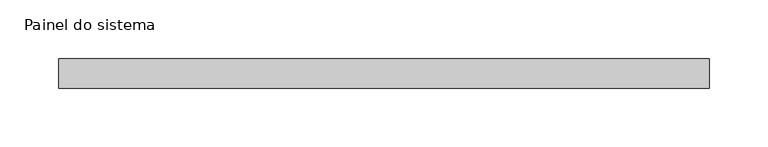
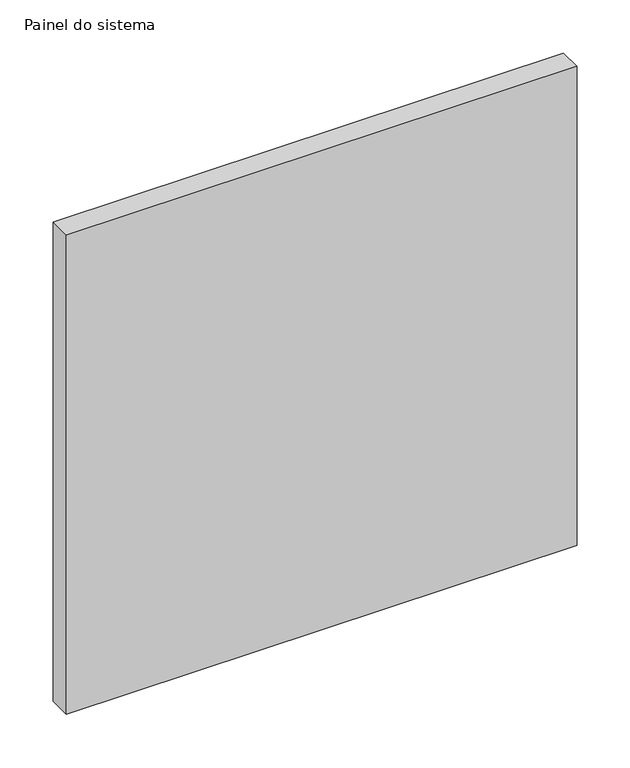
"""IFC4 building model written with IfcOpenShell, lengths in millimetres: plate geometry, Painel do sistema : Envidraçado."""

from ifc_helpers import new_model, si_unit, origin, origin_with_axes, place, context, project, spatial, polyline, outline, extrude, source, transform, mapped, element, save


def painel_do_sistema_366cc87a(model_context):
    return source(origin(), model_context, "Body", "SweptSolid", [
        extrude(outline(polyline([(277.0833333, 24.5), (-277.0833333, 24.5), (-277.0833333, 49.5), (277.0833333, 49.5), (277.0833333, 24.5)])), origin_with_axes(), (0.0, 0.0, 1.0), 550.0),
    ])


if __name__ == "__main__":
    model = new_model("IFC4")
    model_context = context("Model", 3, world=origin())
    ifc_project = project(units=[si_unit("LENGTHUNIT", "METRE", prefix="MILLI")], contexts=[model_context])
    site = spatial("IfcSite", under=ifc_project)
    building = spatial("IfcBuilding", under=site)
    placement = place(None, origin())
    painel_do_sistema_shape = painel_do_sistema_366cc87a(model_context)
    element("IfcPlate", 1, ObjectType="Painel do sistema : Envidraçado", at=placement, inside=building, context=model_context, shape_type="MappedRepresentation", body=[
        mapped(painel_do_sistema_shape, transform((0.0, 0.0, 0.0), x_axis=(1.0, 0.0, 0.0), y_axis=(0.0, 1.0, 0.0), z_axis=(0.0, 0.0, 1.0))),
    ])
    save(model, "model.ifc")
